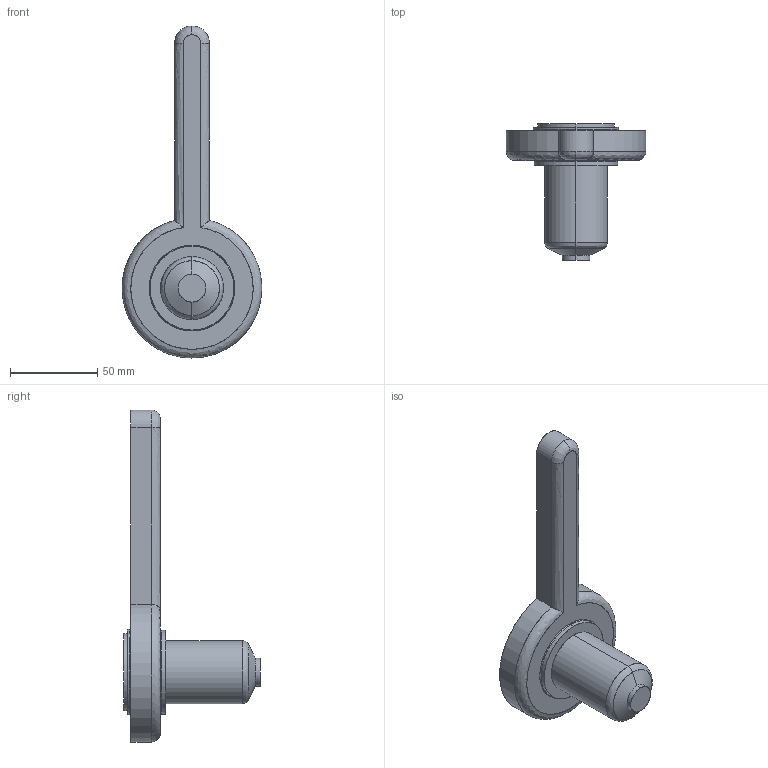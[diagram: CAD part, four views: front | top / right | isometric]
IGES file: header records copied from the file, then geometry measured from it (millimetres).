
Start section: SolidWorks IGES file using analytic representation for surfaces
Global section: file name: C:\Documents and Settings\ws-20\Desktop\TEMPORANEA\Sede UGBE5001-S-A C-54 L-76 P-0.IGS; native system: SolidWorks 2012; preprocessor: SolidWorks 2012; author: ws-20; date: 120307.090640; units: millimetre
Bounding box: 79.98 x 78.14 x 190 mm (x, y, z)
Surface area: 27657.4 mm2 (no closed solid volume)
Topology: 0 solids, 0 shells, 34 faces, 788 edges, 788 vertices
Faces by surface type: revolution 21, bspline 13
